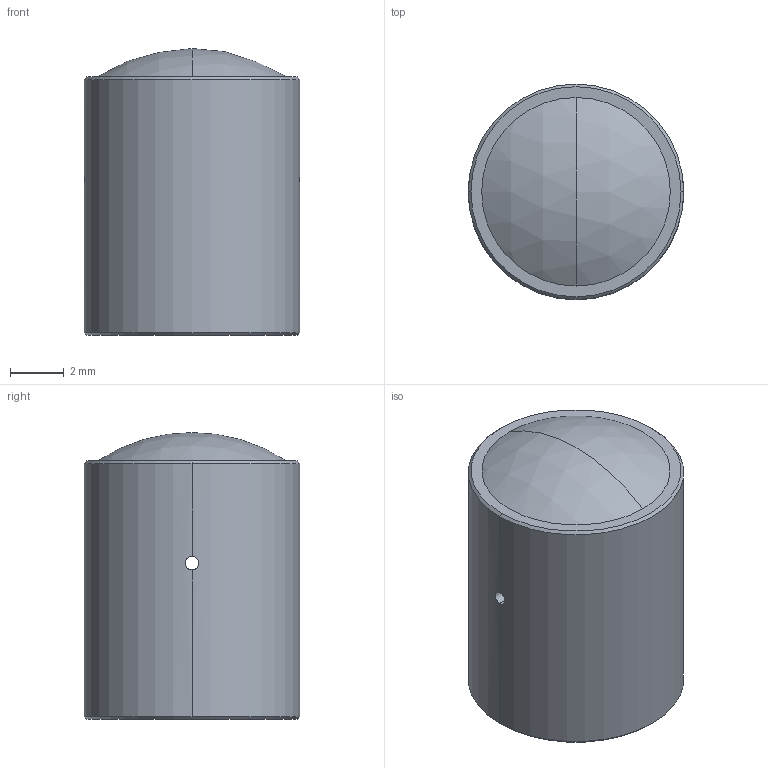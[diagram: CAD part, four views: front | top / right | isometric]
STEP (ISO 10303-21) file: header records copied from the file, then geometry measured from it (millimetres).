
FILE_DESCRIPTION (( 'STEP AP214' ), '1' );
FILE_NAME ('FTL-M26V3.STEP', '2020-10-31T06:58:05', ( '' ), ( '' ), 'SwSTEP 2.0', 'SolidWorks 2018', '' );
FILE_SCHEMA (( 'AUTOMOTIVE_DESIGN' ));
Length unit declared in the file: millimetre
Products named in the file (1): FTL-M26V3
Bounding box: 8 x 8 x 10.65 mm (x, y, z)
Volume: 488.5 mm3; surface area: 388.6 mm2
Topology: 1 solids, 1 shells, 31 faces, 77 edges, 48 vertices
Faces by surface type: cylinder 18, cone 4, plane 4, bspline 3, sphere 2
Entity records: 1682 total; most frequent: CARTESIAN_POINT 1005, ORIENTED_EDGE 154, DIRECTION 115, EDGE_CURVE 77, VERTEX_POINT 48, AXIS2_PLACEMENT_3D 44, EDGE_LOOP 33, ADVANCED_FACE 31
